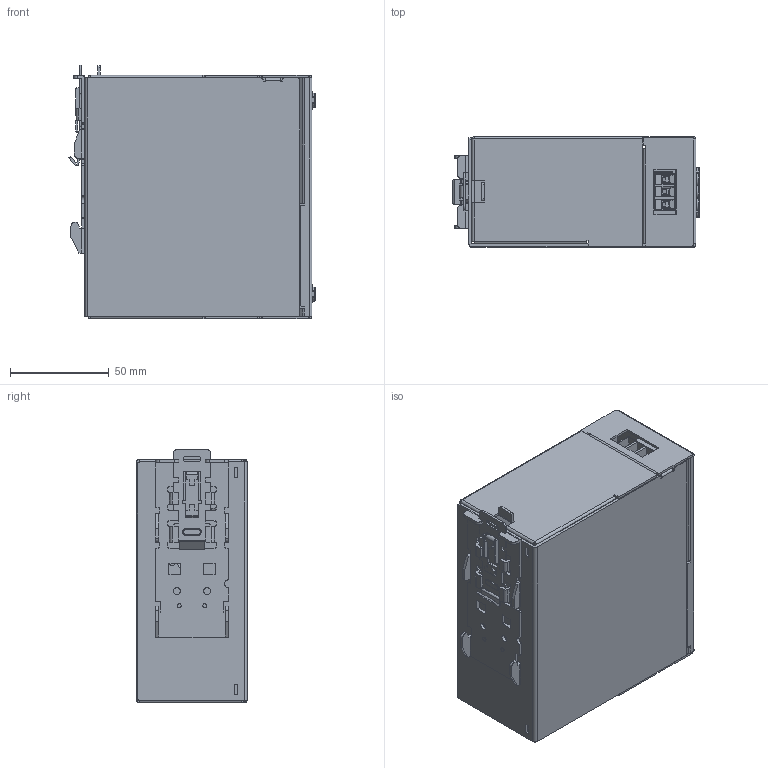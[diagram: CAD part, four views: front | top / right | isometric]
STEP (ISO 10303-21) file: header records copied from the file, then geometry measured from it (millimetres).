
FILE_DESCRIPTION (( 'STEP AP214' ), '1' );
FILE_NAME ('REDIIN480_3D_20220530.STEP', '2024-03-26T00:21:21', ( '' ), ( '' ), 'SwSTEP 2.0', 'SolidWorks 2023', '' );
FILE_SCHEMA (( 'AUTOMOTIVE_DESIGN' ));
Products named in the file (1): REDIIN480_3D_20220530
Bounding box: 125.14 x 56 x 128.8 mm (x, y, z)
Surface area: 136186.7 mm2 (no closed solid volume)
Topology: 0 solids, 6 shells, 3101 faces, 9080 edges, 5944 vertices
Faces by surface type: plane 2011, cylinder 887, bspline 160, cone 43
Full cylindrical faces by diameter (mm): 1 x2, 1.3 x7, 2 x2, 2.5 x1, 2.6 x7, 2.8 x7, 3 x2, 3.1 x7, 3.2 x2, 3.5 x6, 3.6 x4, 3.7 x1, 4.5 x2, 5 x7, 5.2 x7, 5.4 x2, 6.5 x4
Entity records: 127958 total; most frequent: CARTESIAN_POINT 49219, ORIENTED_EDGE 17715, DIRECTION 14298, EDGE_CURVE 8859, VECTOR 6022, LINE 6022, VERTEX_POINT 5871, AXIS2_PLACEMENT_3D 4138
